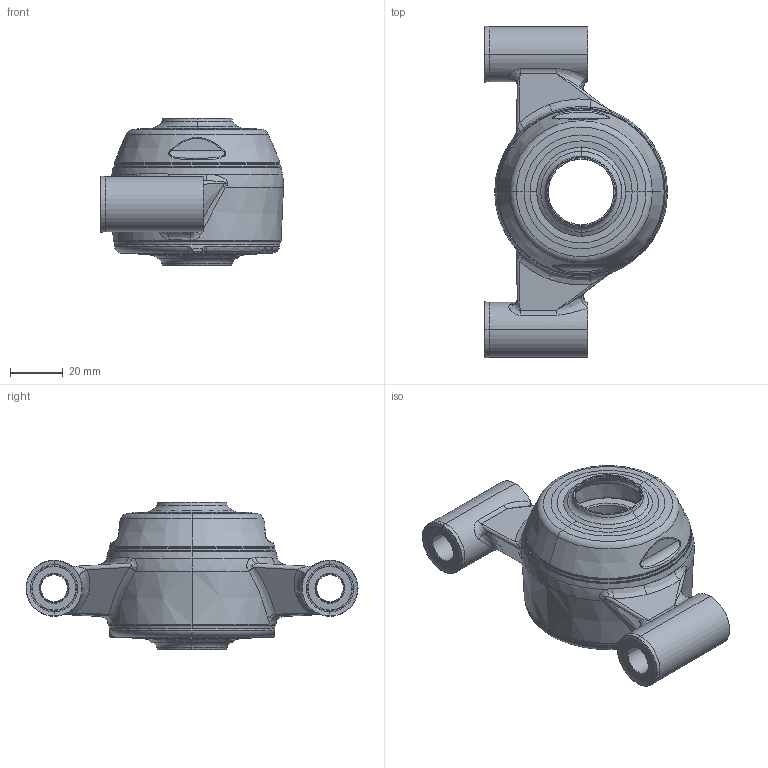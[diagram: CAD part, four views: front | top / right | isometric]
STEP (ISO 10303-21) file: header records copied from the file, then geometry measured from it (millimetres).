
FILE_DESCRIPTION (( 'STEP AP203' ), '1' );
FILE_NAME ('XBPBC52(Blue)-SSB2540(Front)-OM(Blue)-OS(Blue)_Shell.step', '2020-08-08T05:33:37', ( '' ), ( '' ), 'SwSTEP 2.0', 'SolidWorks 2019', '' );
FILE_SCHEMA (( 'CONFIG_CONTROL_DESIGN' ));
Length unit declared in the file: millimetre
Products named in the file (1): XBPBC52(Blue)-SSB2540(Front)-OM(Blue)-OS(Blue)_Shell
Bounding box: 69.69 x 126.4 x 56.34 mm (x, y, z)
Surface area: 37614 mm2 (no closed solid volume)
Topology: 0 solids, 23 shells, 295 faces, 850 edges, 565 vertices
Faces by surface type: bspline 86, cone 69, torus 56, cylinder 49, plane 25, sphere 10
Entity records: 16212 total; most frequent: CARTESIAN_POINT 8987, DIRECTION 1477, ORIENTED_EDGE 1445, EDGE_CURVE 850, AXIS2_PLACEMENT_3D 664, VERTEX_POINT 565, CIRCLE 454, EDGE_LOOP 316
